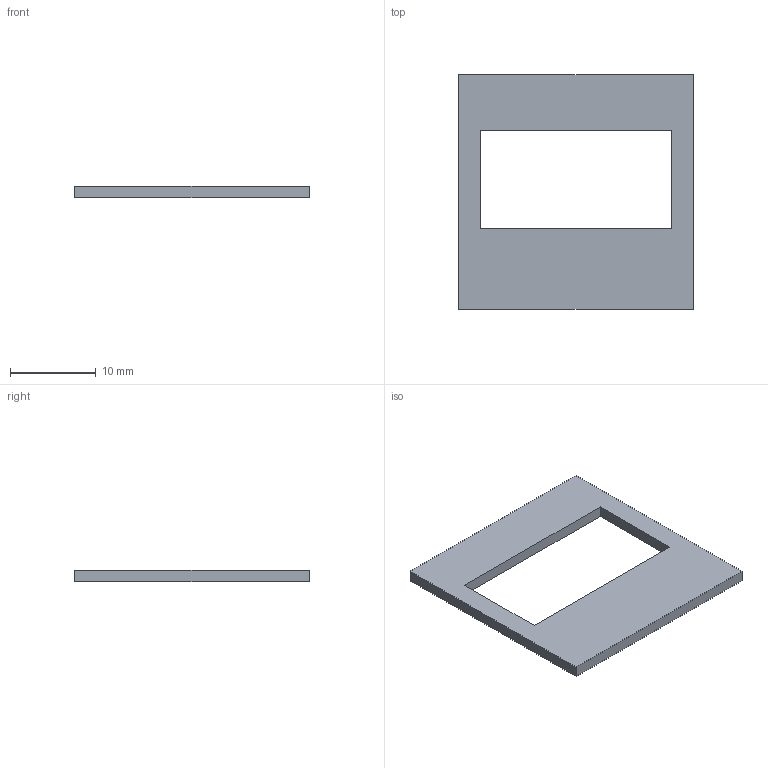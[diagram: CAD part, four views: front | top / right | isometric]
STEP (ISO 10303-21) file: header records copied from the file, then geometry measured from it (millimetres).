
FILE_DESCRIPTION(('Open CASCADE Model'),'2;1');
FILE_NAME('Open CASCADE Shape Model','2026-05-31T19:44:12',('Author'),( 'Open CASCADE'),'Open CASCADE STEP processor 7.6','Open CASCADE 7.6' ,'Unknown');
FILE_SCHEMA(('AP242_MANAGED_MODEL_BASED_3D_ENGINEERING_MIM_LF. {1 0 10303 442 1 1 4 }'));
Length unit declared in the file: millimetre
Products named in the file (1): Open CASCADE STEP translator 7.6 12
Bounding box: 27.4 x 27.4 x 1.35 mm (x, y, z)
Volume: 665.8 mm3; surface area: 1225.8 mm2
Topology: 1 solids, 1 shells, 10 faces, 24 edges, 16 vertices
Faces by surface type: plane 10
Entity records: 614 total; most frequent: CARTESIAN_POINT 99, DIRECTION 94, LINE 72, VECTOR 72, ORIENTED_EDGE 48, PCURVE 48, DEFINITIONAL_REPRESENTATION 48, EDGE_CURVE 24
